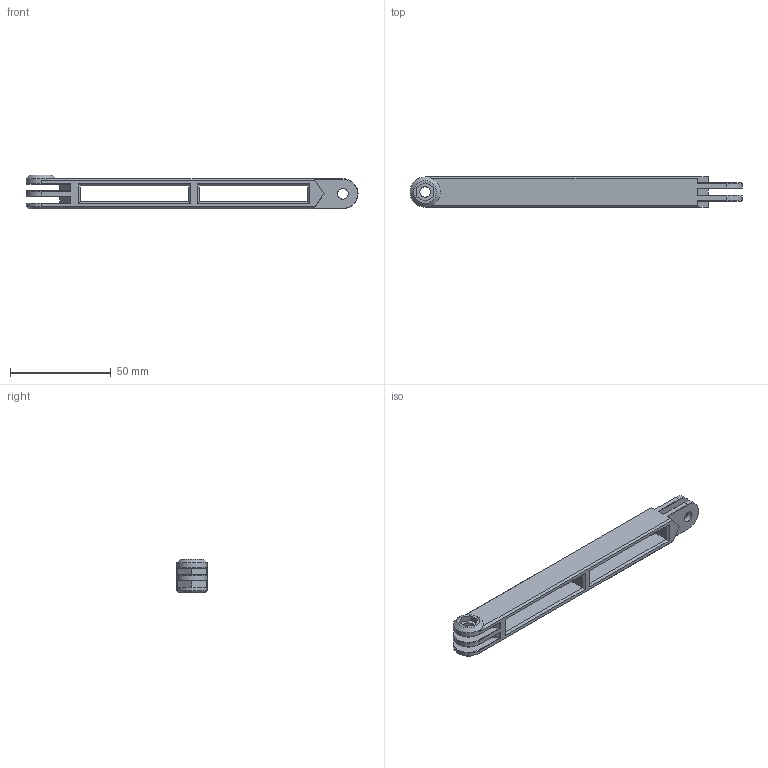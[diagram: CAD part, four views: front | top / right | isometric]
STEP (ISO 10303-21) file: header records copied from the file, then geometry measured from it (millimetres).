
FILE_DESCRIPTION(/* description */ ('STEP AP214'),/* implementation_level */ '2;1');
FILE_NAME(/* name */ '60a1cad847515311da46b78e',/* time_stamp */ '2021-05-17T01:46:01+00:00',/* author */ (''),/* organization */ (''),/* preprocessor_version */ 'ST-DEVELOPER v18.1',/* originating_system */ ' ',/* authorisation */ ' ');
FILE_SCHEMA (('AUTOMOTIVE_DESIGN {1 0 10303 214 3 1 1}'));
Length unit declared in the file: metre
Products named in the file (1): Arm Rotated
Bounding box: 165 x 15 x 16.8 mm (x, y, z)
Volume: 18726.4 mm3; surface area: 12585.2 mm2
Topology: 1 solids, 1 shells, 104 faces, 272 edges, 171 vertices
Faces by surface type: plane 84, cylinder 10, cone 10
Full cylindrical faces by diameter (mm): 5.3 x5
Entity records: 3095 total; most frequent: CARTESIAN_POINT 530, ORIENTED_EDGE 520, DIRECTION 503, EDGE_CURVE 260, LINE 227, VECTOR 227, VERTEX_POINT 165, AXIS2_PLACEMENT_3D 138
